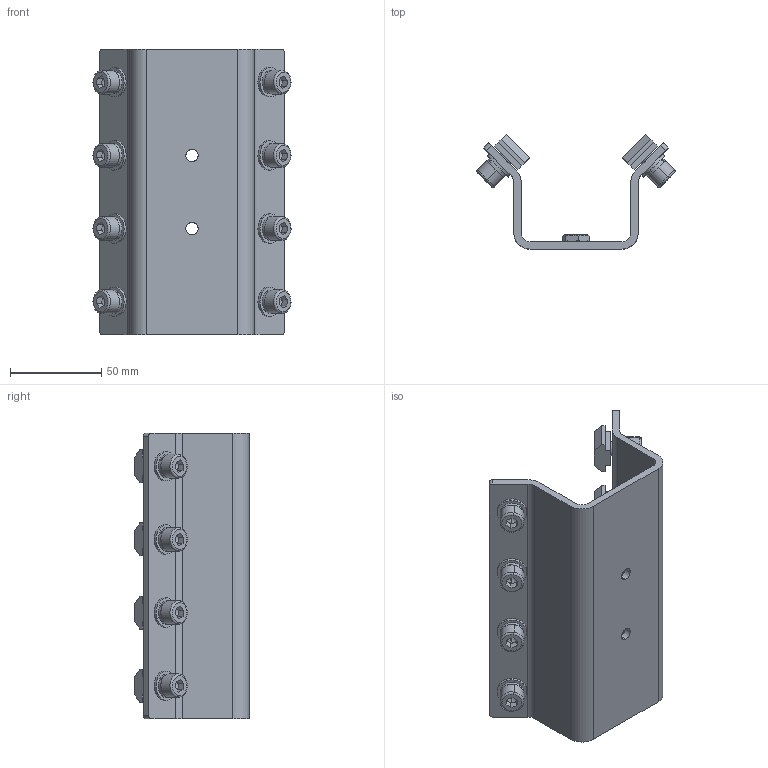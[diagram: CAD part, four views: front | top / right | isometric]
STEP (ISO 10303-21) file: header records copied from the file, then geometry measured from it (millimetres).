
FILE_DESCRIPTION (( 'STEP AP203' ), '1' );
FILE_NAME ('SPS.AP40.STEP', '2014-05-20T05:46:56', ( 'USER' ), ( 'Microsoft' ), 'SwSTEP 2.0', 'SolidWorks 2012', '' );
FILE_SCHEMA (( 'CONFIG_CONTROL_DESIGN' ));
Length unit declared in the file: millimetre
Products named in the file (7): 褒蛌諉啣; hexagon socket head cap screws gb_GB_FASTENER_SCREWS_HSHCS M8X16-C; 2.11.10.M8; SPS.AP40; hex thin nuts-grades ab-chamfered gb_GB_FASTENER_NUT_STNAB M8-C; plain washers--product grade c gb_GB_FASTENER_WASHER_SMWC 8; spring lock washers--normal type gb_GB_FASTENER_WASHER_SW 8
Assembly tree (35 placements, depth 2):
  SPS.AP40
    褒蛌諉啣
    hex thin nuts-grades ab-chamfered gb_GB_FASTENER_NUT_STNAB M8-C  x2
    plain washers--product grade c gb_GB_FASTENER_WASHER_SMWC 8  x8
    spring lock washers--normal type gb_GB_FASTENER_WASHER_SW 8  x8
    hexagon socket head cap screws gb_GB_FASTENER_SCREWS_HSHCS M8X16-C  x8
    2.11.10.M8  x8
Bounding box: 108.23 x 62.63 x 156 mm (x, y, z)
Volume: 143133.3 mm3; surface area: 83906.8 mm2
Topology: 35 solids, 35 shells, 522 faces, 1236 edges, 784 vertices
Faces by surface type: plane 294, cylinder 164, cone 48, torus 16
Entity records: 5399 total; most frequent: CARTESIAN_POINT 784, DIRECTION 718, ORIENTED_EDGE 596, EDGE_CURVE 298, AXIS2_PLACEMENT_3D 279, VERTEX_POINT 193, LINE 160, VECTOR 160
